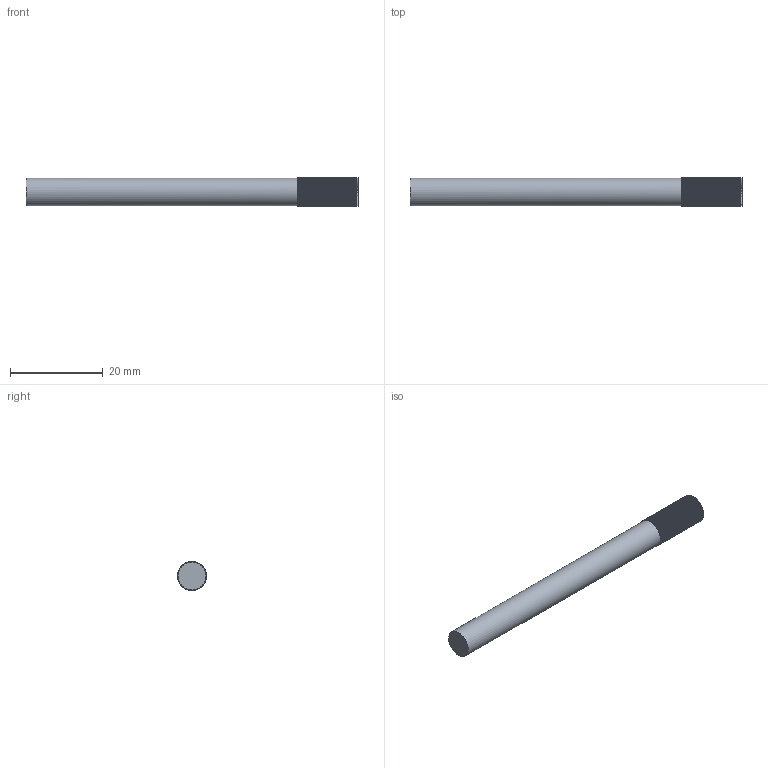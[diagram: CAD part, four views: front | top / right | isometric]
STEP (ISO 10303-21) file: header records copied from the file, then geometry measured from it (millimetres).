
FILE_DESCRIPTION (( 'STEP AP214' ), '1' );
FILE_NAME ('SN02001.step', '2024-12-03T16:31:31', ( '' ), ( '' ), 'SwSTEP 2.0', 'SolidWorks 2023', '' );
FILE_SCHEMA (( 'AUTOMOTIVE_DESIGN' ));
Length unit declared in the file: millimetre
Products named in the file (1): SN02001
Bounding box: 71.5 x 6.2 x 6.2 mm (x, y, z)
Volume: 2034.1 mm3; surface area: 1814.6 mm2
Topology: 1 solids, 1 shells, 927 faces, 2313 edges, 1388 vertices
Faces by surface type: plane 695, cylinder 232
Full cylindrical faces by diameter (mm): 6 x1
Entity records: 27094 total; most frequent: DIRECTION 4861, CARTESIAN_POINT 4626, ORIENTED_EDGE 4622, EDGE_CURVE 2311, AXIS2_PLACEMENT_3D 1622, VECTOR 1617, LINE 1617, VERTEX_POINT 1387
